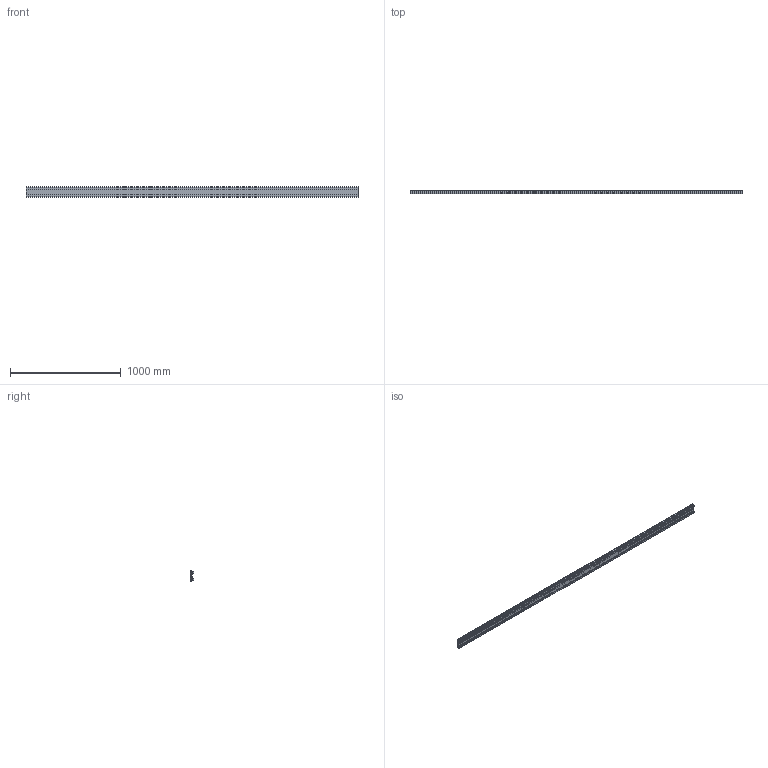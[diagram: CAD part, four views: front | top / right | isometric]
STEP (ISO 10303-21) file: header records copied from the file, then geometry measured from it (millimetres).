
FILE_DESCRIPTION(('STEP AP214'),'1');
FILE_NAME('P33504_01','2017-03-10T09:05:17',('dentellad'),(' '),'Spatial InterOp 3D',' ',' ');
FILE_SCHEMA(('automotive_design'));
Length unit declared in the file: millimetre
Products named in the file (27): 1; 2; 3; 4; 5; 6; 7; 8; 9; 10; 11; 12; 13; 14; 15; 16; 17; 18; 19; 20; 21; 22; 23; 24; 25; 26; 27
Bounding box: 3000 x 27.63 x 92 mm (x, y, z)
Volume: 3958243.1 mm3; surface area: 1729204.8 mm2
Topology: 27 solids, 27 shells, 5800 faces, 14138 edges, 8392 vertices
Faces by surface type: plane 2756, torus 2000, cylinder 1044
Entity records: 364390 total; most frequent: CARTESIAN_POINT 115685, ORIENTED_EDGE 28276, DIRECTION 26880, STYLED_ITEM 19965, PRESENTATION_STYLE_ASSIGNMENT 19965, COLOUR_RGB 19965, EDGE_CURVE 14138, CURVE_STYLE 14138
